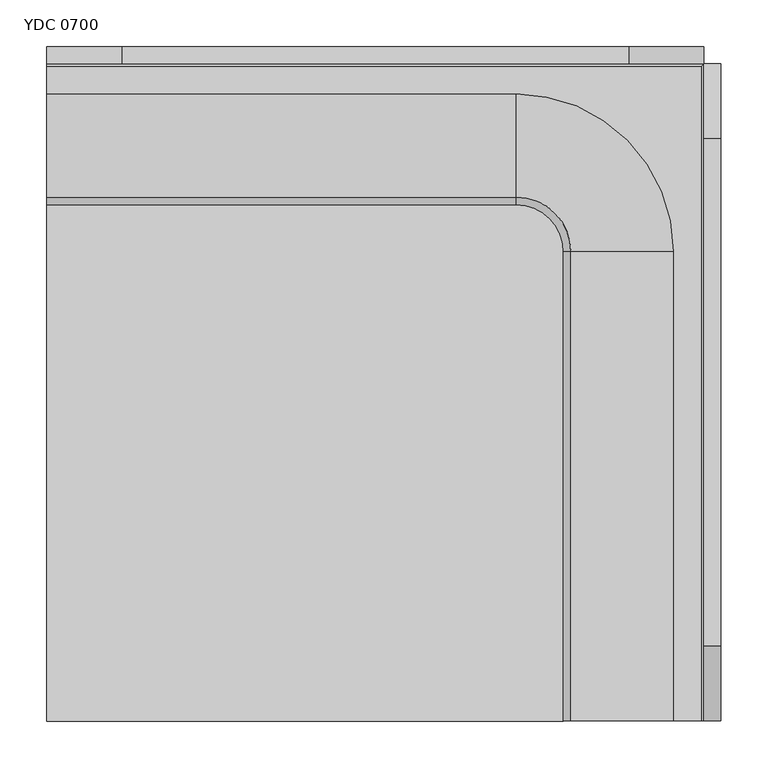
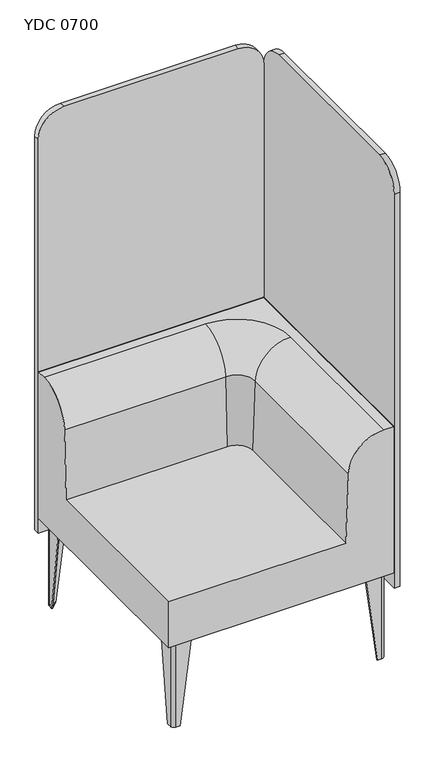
"""IFC4 building model written with IfcOpenShell, lengths in millimetres: furniture geometry, Mobiliário_Mobiliário de Escritório_LinhaYoung_Divisor Sofa Canto (Aço) - YDC_Marelli : YDC 0700."""

from ifc_helpers import new_model, si_unit, point, frame, frame_2d, origin, origin_with_axes, place, context, project, spatial, polyline, circle_curve, ellipse_curve, trimmed, segment, composite_curve, outline, extrude, source, transform, mapped, element, save
from ifc_brep_helpers import plane_surface, cylinder_surface, revolved_surface, advanced_brep


def ydc_0700_d36201fb(model_context):
    return source(origin(), model_context, "Body", "SolidModel", [
        advanced_brep(
        [(20.0, 75.0, 280.0), (20.0, 25.0, 280.0), (30.0, 15.0, 280.0), (80.0, 15.0, 280.0), (80.0, 18.0, 280.0), (30.0, 18.0, 280.0), (23.0, 25.0, 280.0), (23.0, 75.0, 280.0), (20.0, 39.0, 0.0), (23.0, 39.0, 0.0), (23.0, 25.0, 0.0), (30.0, 18.0, 0.0), (44.0, 18.0, 0.0), (44.0, 15.0, 0.0), (30.0, 15.0, 0.0), (20.0, 25.0, 0.0)],
        [
            (0, 1),
            (1, 2, circle_curve(frame((30.0, 25.0, 280.0), z_axis=(0.0, 0.0, 1.0), x_axis=(0.0, -1.0, 0.0)), 10.0)),
            (2, 3),
            (3, 4),
            (4, 5),
            (5, 6, circle_curve(frame((30.0, 25.0, 280.0), z_axis=(0.0, 0.0, -1.0), x_axis=(-1.0, 0.0, 0.0)), 7.0)),
            (6, 7),
            (7, 0),
            (8, 9),
            (9, 10),
            (10, 11, circle_curve(frame((30.0, 25.0, 0.0), z_axis=(0.0, 0.0, 1.0), x_axis=(-1.0, 0.0, 0.0)), 7.0)),
            (11, 12),
            (12, 13),
            (13, 14),
            (14, 15, circle_curve(frame((30.0, 25.0, 0.0), z_axis=(0.0, 0.0, -1.0), x_axis=(0.0, -1.0, 0.0)), 10.0)),
            (15, 8),
            (15, 1),
            (0, 8),
            (14, 2),
            (13, 3),
            (12, 4),
            (11, 5),
            (10, 6),
            (9, 7),
        ],
        [
            plane_surface(frame((38.25, 33.25, 280.0), z_axis=(0.0, 0.0, 1.0), x_axis=(0.0, -1.0, 0.0))),
            plane_surface(frame((29.25, 24.25, 0.0), z_axis=(0.0, 0.0, -1.0), x_axis=(0.0, -1.0, 0.0))),
            plane_surface(frame((20.0, 32.0, 0.0), z_axis=(-1.0, 0.0, 0.0), x_axis=(0.0, -1.0, 0.0))),
            cylinder_surface(frame((30.0, 25.0, 0.0), z_axis=(0.0, 0.0, 1.0), x_axis=(0.0, -1.0, 0.0)), 10.0),
            plane_surface(frame((37.0, 15.0, 0.0), z_axis=(0.0, -1.0, 0.0), x_axis=(1.0, 0.0, 0.0))),
            plane_surface(frame((44.0, 16.5, 0.0), z_axis=(0.9918357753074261, 0.0, -0.12752174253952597), x_axis=(0.0, 1.0, 0.0))),
            plane_surface(frame((37.0, 18.0, 0.0), z_axis=(0.0, 1.0, 0.0), x_axis=(-1.0, 0.0, 0.0))),
            revolved_surface(polyline([(23.0, 25.0, 280.0), (23.0, 25.0, 0.0)]), (30.0, 25.0, 0.0), (0.0, 0.0, 1.0)),
            plane_surface(frame((23.0, 32.0, 0.0), z_axis=(1.0, 0.0, 0.0), x_axis=(0.0, 1.0, 0.0))),
            plane_surface(frame((21.5, 39.0, 0.0), z_axis=(0.0, 0.9918357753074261, -0.12752174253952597), x_axis=(-1.0, 0.0, 0.0))),
        ],
        [
            (0, [[1, 2, 3, 4, 5, 6, 7, 8]]),
            (1, [[9, 10, 11, 12, 13, 14, 15, 16]]),
            (2, [[-16, 17, -1, 18]]),
            (3, [[-15, 19, -2, -17]]),
            (4, [[-14, 20, -3, -19]]),
            (5, [[-13, 21, -4, -20]]),
            (6, [[-12, 22, -5, -21]]),
            (7, [[-11, 23, -6, -22]]),
            (8, [[-10, 24, -7, -23]]),
            (9, [[-9, -18, -8, -24]]),
        ],
    ),
        advanced_brep(
        [(680.0, 75.0, 280.0), (677.0, 75.0, 280.0), (677.0, 25.0, 280.0), (670.0, 18.0, 280.0), (620.0, 18.0, 280.0), (620.0, 15.0, 280.0), (670.0, 15.0, 280.0), (680.0, 25.0, 280.0), (680.0, 39.0, 0.0), (680.0, 25.0, 0.0), (670.0, 15.0, 0.0), (656.0, 15.0, 0.0), (656.0, 18.0, 0.0), (670.0, 18.0, 0.0), (677.0, 25.0, 0.0), (677.0, 39.0, 0.0)],
        [
            (0, 1),
            (1, 2),
            (2, 3, circle_curve(frame((670.0, 25.0, 280.0), z_axis=(0.0, 0.0, -1.0), x_axis=(0.0, -1.0, 0.0)), 7.0)),
            (3, 4),
            (4, 5),
            (5, 6),
            (6, 7, circle_curve(frame((670.0, 25.0, 280.0), z_axis=(0.0, 0.0, 1.0), x_axis=(1.0, 0.0, 0.0)), 10.0)),
            (7, 0),
            (8, 9),
            (9, 10, circle_curve(frame((670.0, 25.0, 0.0), z_axis=(0.0, 0.0, -1.0), x_axis=(1.0, 0.0, 0.0)), 10.0)),
            (10, 11),
            (11, 12),
            (12, 13),
            (13, 14, circle_curve(frame((670.0, 25.0, 0.0), z_axis=(0.0, 0.0, 1.0), x_axis=(0.0, -1.0, 0.0)), 7.0)),
            (14, 15),
            (15, 8),
            (8, 0),
            (7, 9),
            (6, 10),
            (5, 11),
            (4, 12),
            (3, 13),
            (2, 14),
            (1, 15),
        ],
        [
            plane_surface(frame((661.75, 33.25, 280.0), z_axis=(0.0, 0.0, 1.0), x_axis=(-1.0, 0.0, 0.0))),
            plane_surface(frame((670.75, 24.25, 0.0), z_axis=(0.0, 0.0, -1.0), x_axis=(-1.0, 0.0, 0.0))),
            plane_surface(frame((680.0, 32.0, 0.0), z_axis=(1.0, 0.0, 0.0), x_axis=(0.0, 1.0, 0.0))),
            cylinder_surface(frame((670.0, 25.0, 0.0), z_axis=(0.0, 0.0, 1.0), x_axis=(1.0, 0.0, 0.0)), 10.0),
            plane_surface(frame((663.0, 15.0, 0.0), z_axis=(0.0, -1.0, 0.0), x_axis=(1.0, 0.0, 0.0))),
            plane_surface(frame((656.0, 16.5, 0.0), z_axis=(-0.9918357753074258, 0.0, -0.1275217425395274), x_axis=(0.0, -1.0, 0.0))),
            plane_surface(frame((663.0, 18.0, 0.0), z_axis=(0.0, 1.0, 0.0), x_axis=(-1.0, 0.0, 0.0))),
            revolved_surface(polyline([(670.0, 18.0, 280.0), (670.0, 18.0, 0.0)]), (670.0, 25.0, 0.0), (0.0, 0.0, 1.0)),
            plane_surface(frame((677.0, 32.0, 0.0), z_axis=(-1.0, 0.0, 0.0), x_axis=(0.0, -1.0, 0.0))),
            plane_surface(frame((678.5, 39.0, 0.0), z_axis=(0.0, 0.9918357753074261, -0.12752174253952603), x_axis=(-1.0, 0.0, 0.0))),
        ],
        [
            (0, [[1, 2, 3, 4, 5, 6, 7, 8]]),
            (1, [[9, 10, 11, 12, 13, 14, 15, 16]]),
            (2, [[-9, 17, -8, 18]]),
            (3, [[-10, -18, -7, 19]]),
            (4, [[-11, -19, -6, 20]]),
            (5, [[-12, -20, -5, 21]]),
            (6, [[-13, -21, -4, 22]]),
            (7, [[-14, -22, -3, 23]]),
            (8, [[-15, -23, -2, 24]]),
            (9, [[-16, -24, -1, -17]]),
        ],
    ),
        advanced_brep(
        [(20.0, 625.0, 280.0), (23.0, 625.0, 280.0), (23.0, 675.0, 280.0), (30.0, 682.0, 280.0), (80.0, 682.0, 280.0), (80.0, 685.0, 280.0), (30.0, 685.0, 280.0), (20.0, 675.0, 280.0), (20.0, 661.0, 0.0), (20.0, 675.0, 0.0), (30.0, 685.0, 0.0), (44.0, 685.0, 0.0), (44.0, 682.0, 0.0), (30.0, 682.0, 0.0), (23.0, 675.0, 0.0), (23.0, 661.0, 0.0)],
        [
            (0, 1),
            (1, 2),
            (2, 3, circle_curve(frame((30.0, 675.0, 280.0), z_axis=(0.0, 0.0, -1.0), x_axis=(0.0, 1.0, 0.0)), 7.0)),
            (3, 4),
            (4, 5),
            (5, 6),
            (6, 7, circle_curve(frame((30.0, 675.0, 280.0), z_axis=(0.0, 0.0, 1.0), x_axis=(-1.0, 0.0, 0.0)), 10.0)),
            (7, 0),
            (8, 9),
            (9, 10, circle_curve(frame((30.0, 675.0, 0.0), z_axis=(0.0, 0.0, -1.0), x_axis=(-1.0, 0.0, 0.0)), 10.0)),
            (10, 11),
            (11, 12),
            (12, 13),
            (13, 14, circle_curve(frame((30.0, 675.0, 0.0), z_axis=(0.0, 0.0, 1.0), x_axis=(0.0, 1.0, 0.0)), 7.0)),
            (14, 15),
            (15, 8),
            (8, 0),
            (7, 9),
            (6, 10),
            (5, 11),
            (4, 12),
            (3, 13),
            (2, 14),
            (1, 15),
        ],
        [
            plane_surface(frame((38.25, 666.75, 280.0), z_axis=(0.0, 0.0, 1.0), x_axis=(1.0, 0.0, 0.0))),
            plane_surface(frame((29.25, 675.75, 0.0), z_axis=(0.0, 0.0, -1.0), x_axis=(1.0, 0.0, 0.0))),
            plane_surface(frame((20.0, 668.0, 0.0), z_axis=(-1.0, 0.0, 0.0), x_axis=(0.0, -1.0, 0.0))),
            cylinder_surface(frame((30.0, 675.0, 0.0), z_axis=(0.0, 0.0, 1.0), x_axis=(-1.0, 0.0, 0.0)), 10.0),
            plane_surface(frame((37.0, 685.0, 0.0), z_axis=(0.0, 1.0, 0.0), x_axis=(-1.0, 0.0, 0.0))),
            plane_surface(frame((44.0, 683.5, 0.0), z_axis=(0.9918357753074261, 0.0, -0.12752174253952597), x_axis=(0.0, 1.0, 0.0))),
            plane_surface(frame((37.0, 682.0, 0.0), z_axis=(0.0, -1.0, 0.0), x_axis=(1.0, 0.0, 0.0))),
            revolved_surface(polyline([(30.0, 682.0, 280.0), (30.0, 682.0, 0.0)]), (30.0, 675.0, 0.0), (0.0, 0.0, 1.0)),
            plane_surface(frame((23.0, 668.0, 0.0), z_axis=(1.0, 0.0, 0.0), x_axis=(0.0, 1.0, 0.0))),
            plane_surface(frame((21.5, 661.0, 0.0), z_axis=(0.0, -0.9918357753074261, -0.127521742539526), x_axis=(1.0, 0.0, 0.0))),
        ],
        [
            (0, [[1, 2, 3, 4, 5, 6, 7, 8]]),
            (1, [[9, 10, 11, 12, 13, 14, 15, 16]]),
            (2, [[-9, 17, -8, 18]]),
            (3, [[-10, -18, -7, 19]]),
            (4, [[-11, -19, -6, 20]]),
            (5, [[-12, -20, -5, 21]]),
            (6, [[-13, -21, -4, 22]]),
            (7, [[-14, -22, -3, 23]]),
            (8, [[-15, -23, -2, 24]]),
            (9, [[-16, -24, -1, -17]]),
        ],
    ),
        advanced_brep(
        [(680.0, 625.0, 280.0), (680.0, 675.0, 280.0), (670.0, 685.0, 280.0), (620.0, 685.0, 280.0), (620.0, 682.0, 280.0), (670.0, 682.0, 280.0), (677.0, 675.0, 280.0), (677.0, 625.0, 280.0), (680.0, 661.0, 0.0), (677.0, 661.0, 0.0), (677.0, 675.0, 0.0), (670.0, 682.0, 0.0), (656.0, 682.0, 0.0), (656.0, 685.0, 0.0), (670.0, 685.0, 0.0), (680.0, 675.0, 0.0)],
        [
            (0, 1),
            (1, 2, circle_curve(frame((670.0, 675.0, 280.0), z_axis=(0.0, 0.0, 1.0), x_axis=(0.0, 1.0, 0.0)), 10.0)),
            (2, 3),
            (3, 4),
            (4, 5),
            (5, 6, circle_curve(frame((670.0, 675.0, 280.0), z_axis=(0.0, 0.0, -1.0), x_axis=(1.0, 0.0, 0.0)), 7.0)),
            (6, 7),
            (7, 0),
            (8, 9),
            (9, 10),
            (10, 11, circle_curve(frame((670.0, 675.0, 0.0), z_axis=(0.0, 0.0, 1.0), x_axis=(1.0, 0.0, 0.0)), 7.0)),
            (11, 12),
            (12, 13),
            (13, 14),
            (14, 15, circle_curve(frame((670.0, 675.0, 0.0), z_axis=(0.0, 0.0, -1.0), x_axis=(0.0, 1.0, 0.0)), 10.0)),
            (15, 8),
            (15, 1),
            (0, 8),
            (14, 2),
            (13, 3),
            (12, 4),
            (11, 5),
            (10, 6),
            (9, 7),
        ],
        [
            plane_surface(frame((661.75, 666.75, 280.0), z_axis=(0.0, 0.0, 1.0), x_axis=(0.0, 1.0, 0.0))),
            plane_surface(frame((670.75, 675.75, 0.0), z_axis=(0.0, 0.0, -1.0), x_axis=(0.0, 1.0, 0.0))),
            plane_surface(frame((680.0, 668.0, 0.0), z_axis=(1.0, 0.0, 0.0), x_axis=(0.0, 1.0, 0.0))),
            cylinder_surface(frame((670.0, 675.0, 0.0), z_axis=(0.0, 0.0, 1.0), x_axis=(0.0, 1.0, 0.0)), 10.0),
            plane_surface(frame((663.0, 685.0, 0.0), z_axis=(0.0, 1.0, 0.0), x_axis=(-1.0, 0.0, 0.0))),
            plane_surface(frame((656.0, 683.5, 0.0), z_axis=(-0.9918357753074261, 0.0, -0.127521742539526), x_axis=(0.0, -1.0, 0.0))),
            plane_surface(frame((663.0, 682.0, 0.0), z_axis=(0.0, -1.0, 0.0), x_axis=(1.0, 0.0, 0.0))),
            revolved_surface(polyline([(677.0, 675.0, 280.0), (677.0, 675.0, 0.0)]), (670.0, 675.0, 0.0), (0.0, 0.0, 1.0)),
            plane_surface(frame((677.0, 668.0, 0.0), z_axis=(-1.0, 0.0, 0.0), x_axis=(0.0, -1.0, 0.0))),
            plane_surface(frame((678.5, 661.0, 0.0), z_axis=(0.0, -0.9918357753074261, -0.127521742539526), x_axis=(1.0, 0.0, 0.0))),
        ],
        [
            (0, [[1, 2, 3, 4, 5, 6, 7, 8]]),
            (1, [[9, 10, 11, 12, 13, 14, 15, 16]]),
            (2, [[-16, 17, -1, 18]]),
            (3, [[-15, 19, -2, -17]]),
            (4, [[-14, 20, -3, -19]]),
            (5, [[-13, 21, -4, -20]]),
            (6, [[-12, 22, -5, -21]]),
            (7, [[-11, 23, -6, -22]]),
            (8, [[-10, 24, -7, -23]]),
            (9, [[-9, -18, -8, -24]]),
        ],
    ),
        extrude(outline(composite_curve([segment(polyline([(23.0, 39.0), (44.0, 18.0), (30.0, 18.0)]), True, "CONTINUOUS"), segment(trimmed(circle_curve(frame_2d((30.0, 25.0)), 7.0), [point((30.0, 18.0))], [point((23.0, 25.0))], False, "CARTESIAN"), True, "CONTINUOUS"), segment(polyline([(23.0, 25.0), (23.0, 39.0)]), True, "CONTINUOUS")], self_intersect=False)), origin_with_axes(), (0.0, 0.0, 1.0), 1.0),
        extrude(outline(composite_curve([segment(polyline([(23.0, 661.0), (23.0, 675.0)]), True, "CONTINUOUS"), segment(trimmed(circle_curve(frame_2d((30.0, 675.0)), 7.0), [point((23.0, 675.0))], [point((30.0, 682.0))], False, "CARTESIAN"), True, "CONTINUOUS"), segment(polyline([(30.0, 682.0), (44.0, 682.0), (23.0, 661.0)]), True, "CONTINUOUS")], self_intersect=False)), origin_with_axes(), (0.0, 0.0, 1.0), 1.0),
        extrude(outline(composite_curve([segment(polyline([(677.0, 39.0), (677.0, 25.0)]), True, "CONTINUOUS"), segment(trimmed(circle_curve(frame_2d((670.0, 25.0)), 7.0), [point((677.0, 25.0))], [point((670.0, 18.0))], False, "CARTESIAN"), True, "CONTINUOUS"), segment(polyline([(670.0, 18.0), (656.0, 18.0), (677.0, 39.0)]), True, "CONTINUOUS")], self_intersect=False)), origin_with_axes(), (0.0, 0.0, 1.0), 1.0),
        extrude(outline(composite_curve([segment(polyline([(677.0, 661.0), (656.0, 682.0), (670.0, 682.0)]), True, "CONTINUOUS"), segment(trimmed(circle_curve(frame_2d((670.0, 675.0)), 7.0), [point((670.0, 682.0))], [point((677.0, 675.0))], False, "CARTESIAN"), True, "CONTINUOUS"), segment(polyline([(677.0, 675.0), (677.0, 661.0)]), True, "CONTINUOUS")], self_intersect=False)), origin_with_axes(), (0.0, 0.0, 1.0), 1.0),
        extrude(outline(composite_curve([segment(trimmed(circle_curve(frame_2d((30.0, 25.0)), 7.0), [point((30.0, 18.0))], [point((23.0, 25.0))], False, "CARTESIAN"), True, "CONTINUOUS"), segment(polyline([(23.0, 25.0), (23.0, 93.0)]), True, "CONTINUOUS"), segment(trimmed(circle_curve(frame_2d((28.0, 93.0)), 5.0), [point((23.0, 93.0))], [point((28.0, 98.0))], False, "CARTESIAN"), True, "CONTINUOUS"), segment(polyline([(28.0, 98.0), (51.9545624, 98.0)]), True, "CONTINUOUS"), segment(trimmed(circle_curve(frame_2d((52.6241051, 89.931755)), 8.0959783), [point((51.9545624, 98.0))], [point((58.520382, 95.479618))], False, "CARTESIAN"), True, "CONTINUOUS"), segment(polyline([(58.520382, 95.479618), (100.479618, 53.520382)]), True, "CONTINUOUS"), segment(trimmed(circle_curve(frame_2d((94.931755, 47.6241051)), 8.0959783), [point((100.479618, 53.520382))], [point((103.0, 46.9545624))], False, "CARTESIAN"), True, "CONTINUOUS"), segment(polyline([(103.0, 46.9545624), (103.0, 23.0)]), True, "CONTINUOUS"), segment(trimmed(circle_curve(frame_2d((98.0, 23.0)), 5.0), [point((103.0, 23.0))], [point((98.0, 18.0))], False, "CARTESIAN"), True, "CONTINUOUS"), segment(polyline([(98.0, 18.0), (30.0, 18.0)]), True, "CONTINUOUS")], self_intersect=False)), frame((0.0, 0.0, 279.0), z_axis=(0.0, 0.0, 1.0), x_axis=(1.0, 0.0, 0.0)), (0.0, 0.0, 1.0), 1.0),
        extrude(outline(composite_curve([segment(polyline([(30.0, 682.0), (98.0, 682.0)]), True, "CONTINUOUS"), segment(trimmed(circle_curve(frame_2d((98.0, 677.0)), 5.0), [point((98.0, 682.0))], [point((103.0, 677.0))], False, "CARTESIAN"), True, "CONTINUOUS"), segment(polyline([(103.0, 677.0), (103.0, 653.0454376)]), True, "CONTINUOUS"), segment(trimmed(circle_curve(frame_2d((94.931755, 652.3758949)), 8.0959783), [point((103.0, 653.0454376))], [point((100.479618, 646.479618))], False, "CARTESIAN"), True, "CONTINUOUS"), segment(polyline([(100.479618, 646.479618), (58.520382, 604.520382)]), True, "CONTINUOUS"), segment(trimmed(circle_curve(frame_2d((52.6241051, 610.068245)), 8.0959783), [point((58.520382, 604.520382))], [point((51.9545624, 602.0))], False, "CARTESIAN"), True, "CONTINUOUS"), segment(polyline([(51.9545624, 602.0), (28.0, 602.0)]), True, "CONTINUOUS"), segment(trimmed(circle_curve(frame_2d((28.0, 607.0)), 5.0), [point((28.0, 602.0))], [point((23.0, 607.0))], False, "CARTESIAN"), True, "CONTINUOUS"), segment(polyline([(23.0, 607.0), (23.0, 675.0)]), True, "CONTINUOUS"), segment(trimmed(circle_curve(frame_2d((30.0, 675.0)), 7.0), [point((23.0, 675.0))], [point((30.0, 682.0))], False, "CARTESIAN"), True, "CONTINUOUS")], self_intersect=False)), frame((0.0, 0.0, 279.0), z_axis=(0.0, 0.0, 1.0), x_axis=(1.0, 0.0, 0.0)), (0.0, 0.0, 1.0), 1.0),
        extrude(outline(composite_curve([segment(polyline([(670.0, 18.0), (602.0, 18.0)]), True, "CONTINUOUS"), segment(trimmed(circle_curve(frame_2d((602.0, 23.0)), 5.0), [point((602.0, 18.0))], [point((597.0, 23.0))], False, "CARTESIAN"), True, "CONTINUOUS"), segment(polyline([(597.0, 23.0), (597.0, 46.9545624)]), True, "CONTINUOUS"), segment(trimmed(circle_curve(frame_2d((605.068245, 47.6241051)), 8.0959783), [point((597.0, 46.9545624))], [point((599.520382, 53.520382))], False, "CARTESIAN"), True, "CONTINUOUS"), segment(polyline([(599.520382, 53.520382), (601.479618, 95.479618)]), True, "CONTINUOUS"), segment(trimmed(circle_curve(frame_2d((607.3758949, 89.931755)), 8.0959783), [point((601.479618, 95.479618))], [point((608.0454376, 98.0))], False, "CARTESIAN"), True, "CONTINUOUS"), segment(polyline([(608.0454376, 98.0), (632.0, 98.0)]), True, "CONTINUOUS"), segment(trimmed(circle_curve(frame_2d((632.0, 53.0)), 45.0), [point((632.0, 98.0))], [point((677.0, 53.0))], False, "CARTESIAN"), True, "CONTINUOUS"), segment(polyline([(677.0, 53.0), (677.0, 25.0)]), True, "CONTINUOUS"), segment(trimmed(circle_curve(frame_2d((670.0, 25.0)), 7.0), [point((677.0, 25.0))], [point((670.0, 18.0))], False, "CARTESIAN"), True, "CONTINUOUS")], self_intersect=False)), frame((0.0, 0.0, 279.0), z_axis=(0.0, 0.0, 1.0), x_axis=(1.0, 0.0, 0.0)), (0.0, 0.0, 1.0), 1.0),
        extrude(outline(composite_curve([segment(trimmed(circle_curve(frame_2d((670.0, 675.0)), 7.0), [point((670.0, 682.0))], [point((677.0, 675.0))], False, "CARTESIAN"), True, "CONTINUOUS"), segment(polyline([(677.0, 675.0), (677.0, 607.0)]), True, "CONTINUOUS"), segment(trimmed(circle_curve(frame_2d((672.0, 607.0)), 5.0), [point((677.0, 607.0))], [point((672.0, 602.0))], False, "CARTESIAN"), True, "CONTINUOUS"), segment(polyline([(672.0, 602.0), (648.0454376, 602.0)]), True, "CONTINUOUS"), segment(trimmed(circle_curve(frame_2d((647.3758949, 610.068245)), 8.0959783), [point((648.0454376, 602.0))], [point((641.479618, 604.520382))], False, "CARTESIAN"), True, "CONTINUOUS"), segment(polyline([(641.479618, 604.520382), (599.520382, 646.479618)]), True, "CONTINUOUS"), segment(trimmed(circle_curve(frame_2d((605.068245, 652.3758949)), 8.0959783), [point((599.520382, 646.479618))], [point((597.0, 653.0454376))], False, "CARTESIAN"), True, "CONTINUOUS"), segment(polyline([(597.0, 653.0454376), (597.0, 677.0)]), True, "CONTINUOUS"), segment(trimmed(circle_curve(frame_2d((602.0, 677.0)), 5.0), [point((597.0, 677.0))], [point((602.0, 682.0))], False, "CARTESIAN"), True, "CONTINUOUS"), segment(polyline([(602.0, 682.0), (670.0, 682.0)]), True, "CONTINUOUS")], self_intersect=False)), frame((0.0, 0.0, 279.0), z_axis=(0.0, 0.0, 1.0), x_axis=(1.0, 0.0, 0.0)), (0.0, 0.0, 1.0), 1.0),
        advanced_brep(
        [(0.0, 668.0, 760.0), (500.0, 668.0, 760.0), (668.0, 500.0, 760.0), (668.0, 0.0, 760.0), (696.9835797, 0.0, 760.0), (696.9835797, 696.9835797, 760.0), (0.0, 696.9835797, 760.0), (0.0, 700.0, 280.0), (700.0, 700.0, 280.0), (700.0, 0.0, 280.0), (0.0, 0.0, 280.0), (0.0, 700.0, 756.9835797), (700.0, 700.0, 756.9835797), (700.0, 0.0, 756.9835797), (558.2568376, 0.0, 654.223651), (550.0, 0.0, 430.0), (0.0, 0.0, 430.0), (558.2568376, 500.0, 654.223651), (550.0, 500.0, 430.0), (500.0, 558.2568376, 654.223651), (500.0, 550.0, 430.0), (0.0, 550.0, 430.0), (0.0, 558.2568376, 654.223651)],
        [
            (0, 1),
            (1, 2, circle_curve(frame((500.0, 500.0, 760.0), z_axis=(0.0, 0.0, -1.0), x_axis=(1.0, 0.0, 0.0)), 168.0)),
            (2, 3),
            (3, 4),
            (4, 5),
            (5, 6),
            (6, 0),
            (7, 8),
            (8, 9),
            (9, 10),
            (10, 7),
            (7, 11),
            (11, 12),
            (12, 8),
            (12, 13),
            (13, 9),
            (3, 14, circle_curve(frame((668.0, 0.0, 650.1824561), z_axis=(0.0, -1.0, 0.0), x_axis=(1.0, 0.0, 0.0)), 109.8175439)),
            (14, 15),
            (15, 16),
            (16, 10),
            (13, 4, circle_curve(frame((696.9835797, 0.0, 756.9835797), z_axis=(0.0, -1.0, 0.0), x_axis=(1.0, 0.0, 0.0)), 3.0164203)),
            (2, 17, circle_curve(frame((668.0, 500.0, 650.1824561), z_axis=(0.0, -1.0, 0.0), x_axis=(1.0, 0.0, 0.0)), 109.8175439)),
            (17, 14),
            (17, 18),
            (18, 15),
            (1, 19, circle_curve(frame((500.0, 668.0, 650.1824561), z_axis=(1.0, 0.0, 0.0), x_axis=(0.0, 1.0, 0.0)), 109.8175439)),
            (19, 17, circle_curve(frame((500.0, 500.0, 654.223651), z_axis=(0.0, 0.0, -1.0), x_axis=(1.0, 0.0, 0.0)), 58.2568376)),
            (19, 20),
            (20, 18, circle_curve(frame((500.0, 500.0, 430.0), z_axis=(0.0, 0.0, -1.0), x_axis=(1.0, 0.0, 0.0)), 50.0)),
            (16, 21),
            (21, 22),
            (22, 0, circle_curve(frame((0.0, 668.0, 650.1824561), z_axis=(-1.0, 0.0, 0.0), x_axis=(0.0, 1.0, 0.0)), 109.8175439)),
            (6, 11, circle_curve(frame((0.0, 696.9835797, 756.9835797), z_axis=(-1.0, 0.0, 0.0), x_axis=(0.0, 1.0, 0.0)), 3.0164203)),
            (22, 19),
            (21, 20),
            (12, 5, ellipse_curve(frame((696.9835797, 696.9835797, 756.9835797), z_axis=(0.7071067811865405, -0.7071067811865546, 0.0), x_axis=(0.7071067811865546, 0.7071067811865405, 0.0)), 4.2658626, 3.0164203)),
        ],
        [
            plane_surface(frame((500.0, 700.0, 760.0), z_axis=(0.0, 0.0, 1.0), x_axis=(-1.0, 0.0, 0.0))),
            plane_surface(frame((500.0, 700.0, 280.0), z_axis=(0.0, 0.0, -1.0), x_axis=(1.0, 0.0, 0.0))),
            plane_surface(frame((700.0, 700.0, 760.0), z_axis=(0.0, 1.0, 0.0), x_axis=(0.0, 0.0, -1.0))),
            plane_surface(frame((700.0, 500.0, 760.0), z_axis=(1.0, 0.0, 0.0), x_axis=(0.0, 0.0, -1.0))),
            plane_surface(frame((550.0, 0.0, 0.0), z_axis=(0.0, -1.0, 0.0), x_axis=(0.0, 0.0, 1.0))),
            cylinder_surface(frame((668.0, 0.0, 650.1824561), z_axis=(0.0, -1.0, 0.0), x_axis=(1.0, 0.0, 0.0)), 109.8175439),
            plane_surface(frame((558.2568376, 0.0, 654.223651), z_axis=(-0.9993226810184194, 0.0, 0.036799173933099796), x_axis=(0.0, 1.0, 0.0))),
            revolved_surface(trimmed(ellipse_curve(frame((668.0, 500.0, 650.1824561), z_axis=(0.0, -1.0, 0.0), x_axis=(1.0, 0.0, 0.0)), 109.8175439, 109.8175439), [point((668.0, 500.0, 760.0))], [point((558.2568376, 500.0, 654.223651))], True, "CARTESIAN"), (500.0, 500.0, 0.0), (0.0, 0.0, 1.0)),
            revolved_surface(polyline([(558.2568376, 500.0, 654.223651), (550.0, 500.0, 430.0)]), (500.0, 500.0, 0.0), (0.0, 0.0, 1.0)),
            plane_surface(frame((0.0, 550.0, 0.0), z_axis=(-1.0, 0.0, 0.0), x_axis=(0.0, 0.0, 1.0))),
            cylinder_surface(frame((500.0, 668.0, 650.1824561), z_axis=(1.0, 0.0, 0.0), x_axis=(0.0, 1.0, 0.0)), 109.8175439),
            plane_surface(frame((500.0, 558.2568376, 654.223651), z_axis=(0.0, -0.9993226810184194, 0.036799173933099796), x_axis=(-1.0, 0.0, 0.0))),
            cylinder_surface(frame((696.9835797, 700.0, 756.9835797), z_axis=(0.0, 1.0, 0.0), x_axis=(1.0, 0.0, 0.0)), 3.0164203),
            cylinder_surface(frame((700.0, 696.9835797, 756.9835797), z_axis=(1.0, 0.0, 0.0), x_axis=(0.0, 1.0, 0.0)), 3.0164203),
            plane_surface(frame((0.0, 550.0, 430.0), z_axis=(0.0, 0.0, 1.0), x_axis=(-1.0, 0.0, 0.0))),
        ],
        [
            (0, [[1, 2, 3, 4, 5, 6, 7]]),
            (1, [[8, 9, 10, 11]]),
            (2, [[-8, 12, 13, 14]]),
            (3, [[-9, -14, 15, 16]]),
            (4, [[17, 18, 19, 20, -10, -16, 21, -4]]),
            (5, [[-17, -3, 22, 23]]),
            (6, [[-18, -23, 24, 25]]),
            (7, [[-2, 26, 27, -22]]),
            (8, [[-24, -27, 28, 29]]),
            (9, [[-11, -20, 30, 31, 32, -7, 33, -12]]),
            (10, [[-1, -32, 34, -26]]),
            (11, [[-28, -34, -31, 35]]),
            (12, [[-15, 36, -5, -21]]),
            (13, [[-6, -36, -13, -33]]),
            (14, [[-30, -19, -25, -29, -35]]),
        ],
    ),
        extrude(outline(composite_curve([segment(polyline([(1600.0, 620.0), (1600.0, 80.0)]), True, "CONTINUOUS"), segment(trimmed(circle_curve(frame_2d((1520.0, 80.0)), 80.0), [point((1600.0, 80.0))], [point((1520.0, 0.0))], False, "CARTESIAN"), True, "CONTINUOUS"), segment(polyline([(1520.0, 0.0), (230.0, 0.0), (230.0, 700.0), (1520.0, 700.0)]), True, "CONTINUOUS"), segment(trimmed(circle_curve(frame_2d((1520.0, 620.0)), 80.0), [point((1520.0, 700.0))], [point((1600.0, 620.0))], False, "CARTESIAN"), True, "CONTINUOUS")], self_intersect=False)), frame((0.0, 700.0, 0.0), z_axis=(0.0, 1.0, 0.0), x_axis=(0.0, 0.0, 1.0)), (0.0, 0.0, 1.0), 18.0),
        extrude(outline(composite_curve([segment(trimmed(circle_curve(frame_2d((620.0, 1520.0)), 80.0), [point((620.0, 1600.0))], [point((700.0, 1520.0))], False, "CARTESIAN"), True, "CONTINUOUS"), segment(polyline([(700.0, 1520.0), (700.0, 230.0), (0.0, 230.0), (0.0, 1520.0)]), True, "CONTINUOUS"), segment(trimmed(circle_curve(frame_2d((80.0, 1520.0)), 80.0), [point((0.0, 1520.0))], [point((80.0, 1600.0))], False, "CARTESIAN"), True, "CONTINUOUS"), segment(polyline([(80.0, 1600.0), (620.0, 1600.0)]), True, "CONTINUOUS")], self_intersect=False)), frame((700.0, 0.0, 0.0), z_axis=(1.0, 0.0, 0.0), x_axis=(0.0, 1.0, 0.0)), (0.0, 0.0, 1.0), 18.0),
    ])


if __name__ == "__main__":
    model = new_model("IFC4")
    model_context = context("Model", 3, world=origin())
    ifc_project = project(units=[si_unit("LENGTHUNIT", "METRE", prefix="MILLI")], contexts=[model_context])
    site = spatial("IfcSite", under=ifc_project)
    building = spatial("IfcBuilding", under=site)
    placement = place(None, origin())
    ydc_0700_shape = ydc_0700_d36201fb(model_context)
    element("IfcFurniture", 1, ObjectType="Mobiliário_Mobiliário de Escritório_LinhaYoung_Divisor Sofa Canto (Aço) - YDC_Marelli : YDC 0700", at=placement, inside=building, context=model_context, shape_type="MappedRepresentation", body=[
        mapped(ydc_0700_shape, transform((0.0, 0.0, 0.0), x_axis=(1.0, 0.0, 0.0), y_axis=(0.0, 1.0, 0.0), z_axis=(0.0, 0.0, 1.0))),
    ])
    save(model, "model.ifc")
